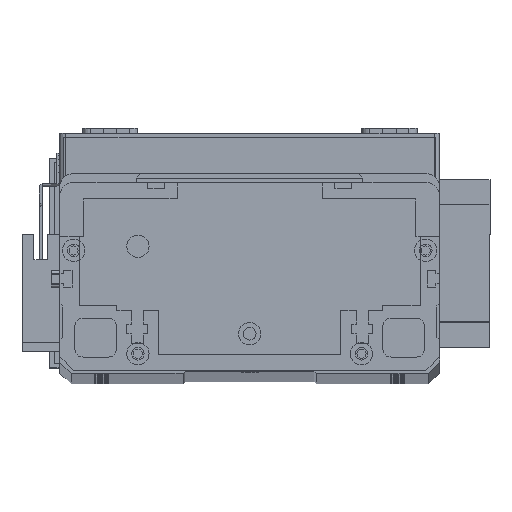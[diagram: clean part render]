
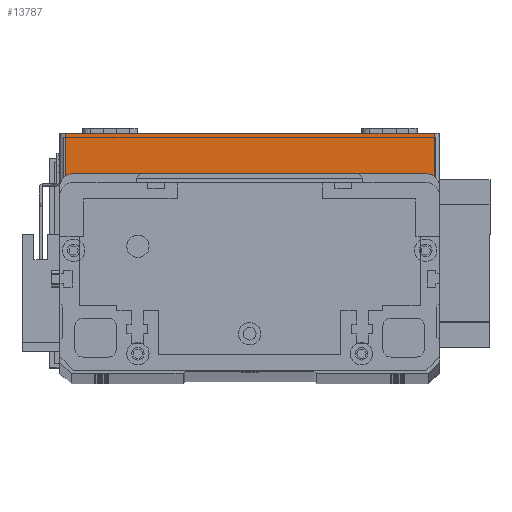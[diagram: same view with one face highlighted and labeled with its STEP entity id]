
A CAD part, top view. The second image highlights one B-rep face of the part: STEP entity #13787.
In plain terms, the highlighted planar face has unit normal (0, 0, 1) as drawn and (0, -1, 0) by its records, which use the part's own axes.
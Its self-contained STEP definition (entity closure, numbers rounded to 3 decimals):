
#318 = LINE ( 'NONE', #8248, #24426 ) ;
#1278 = DIRECTION ( 'NONE',  ( 0., 0., -1. ) ) ;
#2585 = PLANE ( 'NONE',  #5589 ) ;
#3659 = CARTESIAN_POINT ( 'NONE',  ( 134., 0., 19.5 ) ) ;
#4147 = CARTESIAN_POINT ( 'NONE',  ( 0., 0., 0. ) ) ;
#4506 = DIRECTION ( 'NONE',  ( 0., 0., 1. ) ) ;
#4854 = LINE ( 'NONE', #4147, #17269 ) ;
#5274 = CARTESIAN_POINT ( 'NONE',  ( 0., 0., 19.5 ) ) ;
#5476 = EDGE_CURVE ( 'NONE', #14319, #12294, #7484, .T. ) ;
#5589 = AXIS2_PLACEMENT_3D ( 'NONE', #21236, #25964, #12008 ) ;
#6267 = EDGE_CURVE ( 'NONE', #6940, #19881, #4854, .T. ) ;
#6478 = CARTESIAN_POINT ( 'NONE',  ( 2., 0., 0. ) ) ;
#6509 = DIRECTION ( 'NONE',  ( 1., 0., 0. ) ) ;
#6940 = VERTEX_POINT ( 'NONE', #6478 ) ;
#7484 = LINE ( 'NONE', #5274, #25362 ) ;
#8248 = CARTESIAN_POINT ( 'NONE',  ( 2., 0., 19.5 ) ) ;
#12008 = DIRECTION ( 'NONE',  ( 0., 0., 1. ) ) ;
#12294 = VERTEX_POINT ( 'NONE', #3659 ) ;
#13158 = CARTESIAN_POINT ( 'NONE',  ( 134., 0., 0. ) ) ;
#13787 = ADVANCED_FACE ( 'NONE', ( #20332 ), #2585, .F. ) ;
#14001 = ORIENTED_EDGE ( 'NONE', *, *, #22106, .T. ) ;
#14319 = VERTEX_POINT ( 'NONE', #16442 ) ;
#16442 = CARTESIAN_POINT ( 'NONE',  ( 2., 0., 19.5 ) ) ;
#17269 = VECTOR ( 'NONE', #6509, 1000. ) ;
#19881 = VERTEX_POINT ( 'NONE', #13158 ) ;
#20332 = FACE_OUTER_BOUND ( 'NONE', #21008, .T. ) ;
#20810 = CARTESIAN_POINT ( 'NONE',  ( 134., 0., 19.5 ) ) ;
#20865 = ORIENTED_EDGE ( 'NONE', *, *, #5476, .F. ) ;
#21008 = EDGE_LOOP ( 'NONE', ( #20865, #29167, #23323, #14001 ) ) ;
#21236 = CARTESIAN_POINT ( 'NONE',  ( 0., 0., 19.5 ) ) ;
#21584 = DIRECTION ( 'NONE',  ( 1., 0., 0. ) ) ;
#22106 = EDGE_CURVE ( 'NONE', #19881, #12294, #30133, .T. ) ;
#23323 = ORIENTED_EDGE ( 'NONE', *, *, #6267, .T. ) ;
#24426 = VECTOR ( 'NONE', #1278, 1000. ) ;
#25362 = VECTOR ( 'NONE', #21584, 1000. ) ;
#25964 = DIRECTION ( 'NONE',  ( 0., 1., 0. ) ) ;
#26901 = VECTOR ( 'NONE', #4506, 1000. ) ;
#27549 = EDGE_CURVE ( 'NONE', #14319, #6940, #318, .T. ) ;
#29167 = ORIENTED_EDGE ( 'NONE', *, *, #27549, .T. ) ;
#30133 = LINE ( 'NONE', #20810, #26901 ) ;
